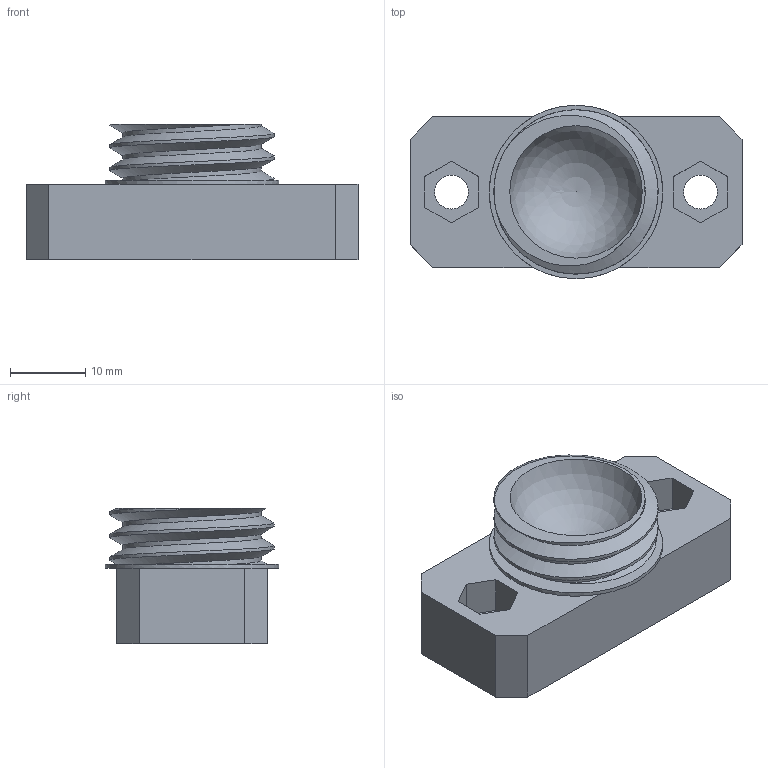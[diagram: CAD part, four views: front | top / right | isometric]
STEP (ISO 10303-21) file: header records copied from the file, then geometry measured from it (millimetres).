
FILE_DESCRIPTION(('FreeCAD Model'),'2;1');
FILE_NAME('Open CASCADE Shape Model','2025-01-22T14:10:19',(''),(''), 'Open CASCADE STEP processor 7.6','FreeCAD','Unknown');
FILE_SCHEMA(('AUTOMOTIVE_DESIGN { 1 0 10303 214 1 1 1 1 }'));
Length unit declared in the file: millimetre
Products named in the file (1): Chamfer
Bounding box: 44 x 23 x 17.9 mm (x, y, z)
Volume: 9530.5 mm3; surface area: 4265.5 mm2
Topology: 1 solids, 1 shells, 42 faces, 107 edges, 70 vertices
Faces by surface type: plane 29, cylinder 10, bspline 2, sphere 1
Full cylindrical faces by diameter (mm): 4.5 x2, 18.337 x1, 21.765 x2, 23 x1
Entity records: 2591 total; most frequent: CARTESIAN_POINT 1305, ORIENTED_EDGE 212, DIRECTION 186, EDGE_CURVE 106, LINE 72, VECTOR 72, VERTEX_POINT 70, AXIS2_PLACEMENT_3D 57
